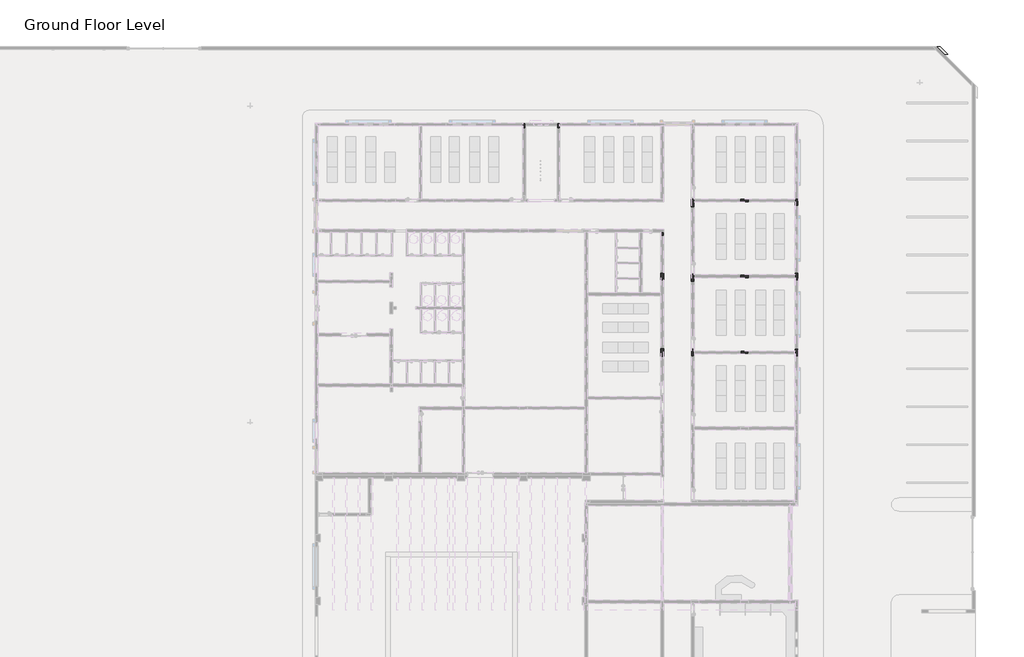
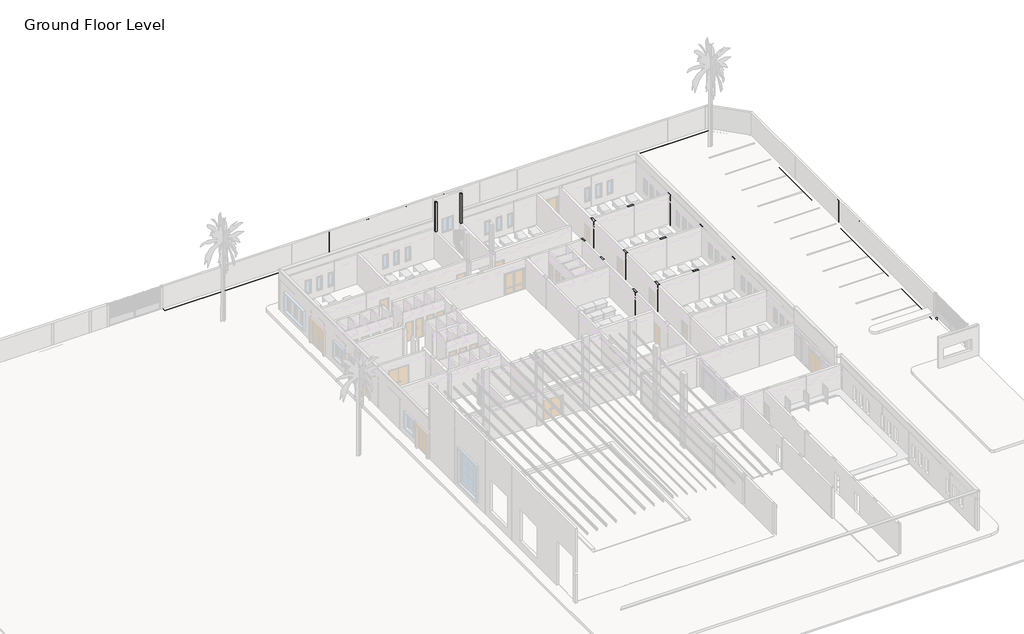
# One storey, part 20 of 23: 29 beams, 23 columns, 15 slabs, 2 footings.
"""IFC4 building model written with IfcOpenShell, lengths in millimetres."""

import ifcopenshell
import ifcopenshell.guid

model = None  # the IFC model being written
_history = None  # IfcOwnerHistory: only IFC2X3 demands one
_inside = {}  # id of a spatial element -> (the spatial element, [elements in it])
_under = {}  # id of a project, library or spatial element -> (it, [spatial elements below it])
_declared = {}  # id of a project -> (the project, [libraries it declares])
_typed = {}  # id of a type object -> (the type object, [elements of that type])
_made_of = {}  # id of a material, layer set ... -> (it, [elements and type objects made of it])


def new_model(schema):
    """Start an empty IFC model of exactly this schema.

    Asked for "IFC4X3", IfcOpenShell would pick the latest addendum, in which some entities
    have other attributes; the version numbers below select the first issue.
    IFC2X3 requires an IfcOwnerHistory on every rooted entity: one is made here for all.
    """
    global model, _history
    if schema == "IFC4X3":
        model = ifcopenshell.file(schema_version=(4, 3, 0, 0))
    else:
        model = ifcopenshell.file(schema=schema)
    _inside.clear()
    _under.clear()
    _declared.clear()
    _typed.clear()
    _made_of.clear()
    _history = None
    if model.schema == "IFC2X3":
        org = make("IfcOrganization", Name="unknown")
        user = make(
            "IfcPersonAndOrganization",
            ThePerson=make("IfcPerson", FamilyName="unknown"),
            TheOrganization=org,
        )
        app = make(
            "IfcApplication",
            ApplicationDeveloper=org,
            Version="unknown",
            ApplicationFullName="unknown",
            ApplicationIdentifier="unknown",
        )
        _history = make(
            "IfcOwnerHistory",
            OwningUser=user,
            OwningApplication=app,
            ChangeAction="ADDED",
            CreationDate=0,
        )
    return model


def make(cls, **values):
    """One entity of the class cls with the attributes given. An attribute that is None is left unset."""
    return model.create_entity(
        cls, **{name: value for name, value in values.items() if value is not None}
    )


def rooted(cls, **values):
    """An entity with a GlobalId (a new one), such as an element, a storey or a relation."""
    return make(cls, GlobalId=ifcopenshell.guid.new(), OwnerHistory=_history, **values)


def si_unit(unit_type, name, prefix=None):
    """IfcSIUnit, for example si_unit("LENGTHUNIT", "METRE", prefix="MILLI")."""
    return make("IfcSIUnit", UnitType=unit_type, Prefix=prefix, Name=name)


def assignment(units):
    """IfcUnitAssignment: the units of a project."""
    return None if units is None else make("IfcUnitAssignment", Units=units)


def point(xyz):
    """IfcCartesianPoint."""
    return None if xyz is None else make("IfcCartesianPoint", Coordinates=xyz)


def direction(xyz):
    """IfcDirection."""
    return None if xyz is None else make("IfcDirection", DirectionRatios=xyz)


def frame(location, z_axis=None, x_axis=None):
    """IfcAxis2Placement3D, a coordinate frame: its origin and axes. An axis left out is left unset."""
    return make(
        "IfcAxis2Placement3D",
        Location=point(location),
        Axis=direction(z_axis),
        RefDirection=direction(x_axis),
    )


def origin():
    """The frame at (0, 0, 0) with its axes left unset."""
    return frame((0.0, 0.0, 0.0))


def place(relative_to, where):
    """IfcLocalPlacement: puts the frame where relative to a parent placement (None: the world)."""
    return make(
        "IfcLocalPlacement", PlacementRelTo=relative_to, RelativePlacement=where
    )


def context(
    kind, dimensions, precision=None, world=None, true_north=None, identifier=None
):
    """IfcGeometricRepresentationContext, for example the 3D "Model" context."""
    return make(
        "IfcGeometricRepresentationContext",
        ContextIdentifier=identifier,
        ContextType=kind,
        CoordinateSpaceDimension=dimensions,
        Precision=precision,
        WorldCoordinateSystem=world,
        TrueNorth=true_north,
    )


def project(units=None, contexts=None):
    """IfcProject with its units and contexts."""
    return rooted(
        "IfcProject",
        Name="project",
        RepresentationContexts=contexts,
        UnitsInContext=assignment(units),
    )


def spatial(cls, under=None, at=None, **own):
    """A site, building, storey or space (cls), placed at a placement, below another one or the project."""
    s = rooted(cls, ObjectPlacement=at, **own)
    if under is not None:
        _under.setdefault(under.id(), (under, []))[1].append(s)
    return s


def polyline(points):
    """IfcPolyline through the points."""
    return make("IfcPolyline", Points=[point(p) for p in points])


def outline(outer, holes=None, kind="AREA"):
    """IfcArbitraryClosedProfileDef: a profile drawn as a closed curve; with holes, ...WithVoids."""
    if holes is None:
        return make("IfcArbitraryClosedProfileDef", ProfileType=kind, OuterCurve=outer)
    return make(
        "IfcArbitraryProfileDefWithVoids",
        ProfileType=kind,
        OuterCurve=outer,
        InnerCurves=holes,
    )


def extrude(swept, where, along, depth):
    """IfcExtrudedAreaSolid: the profile swept, set in the frame where, extruded along a direction by depth."""
    return make(
        "IfcExtrudedAreaSolid",
        SweptArea=swept,
        Position=where,
        ExtrudedDirection=direction(along),
        Depth=depth,
    )


def faces_of(points, faces, orient=None, outer=None):
    """IfcFace entities. A face is a list of loops; a loop is a list of indices into points, from 0.

    orient and outer hold one flag for each loop. By default every Orientation is true, the
    first loop of a face is its IfcFaceOuterBound and the others are IfcFaceBound.
    """
    made = []
    for i, loops in enumerate(faces):
        bounds = []
        for j, loop in enumerate(loops):
            is_outer = j == 0 if outer is None else outer[i][j]
            bounds.append(
                make(
                    "IfcFaceOuterBound" if is_outer else "IfcFaceBound",
                    Bound=make("IfcPolyLoop", Polygon=[points[k] for k in loop]),
                    Orientation=True if orient is None else orient[i][j],
                )
            )
        made.append(make("IfcFace", Bounds=bounds))
    return made


def faceted_brep(points, faces, orient=None, outer=None, voids=None):
    """IfcFacetedBrep: a solid bounded by flat faces; with voids (closed shells), ...WithVoids."""
    shared = [point(p) for p in points]
    hull = make("IfcClosedShell", CfsFaces=faces_of(shared, faces, orient, outer))
    if voids is None:
        return make("IfcFacetedBrep", Outer=hull)
    return make(
        "IfcFacetedBrepWithVoids",
        Outer=hull,
        Voids=[
            make(cls, CfsFaces=faces_of(shared, fs, o, b)) for cls, fs, o, b in voids
        ],
    )


def shape(context_of_items, identifier, shape_type, items):
    """IfcShapeRepresentation: the items that make up one representation, for example the "Body"."""
    return make(
        "IfcShapeRepresentation",
        ContextOfItems=context_of_items,
        RepresentationIdentifier=identifier,
        RepresentationType=shape_type,
        Items=items,
    )


def source(mapping_origin, context_of_items, identifier, shape_type, items):
    """IfcRepresentationMap: a shape defined once, which mapped items show again and again."""
    return make(
        "IfcRepresentationMap",
        MappingOrigin=mapping_origin,
        MappedRepresentation=shape(context_of_items, identifier, shape_type, items),
    )


def transform(
    local_origin,
    x_axis=None,
    y_axis=None,
    z_axis=None,
    scale=None,
    scale2=None,
    scale3=None,
    uniform=True,
):
    """IfcCartesianTransformationOperator3D, or its non-uniform kind. x_axis, y_axis, z_axis: its Axis1, 2, 3."""
    if uniform:
        return make(
            "IfcCartesianTransformationOperator3D",
            Axis1=direction(x_axis),
            Axis2=direction(y_axis),
            LocalOrigin=point(local_origin),
            Scale=scale,
            Axis3=direction(z_axis),
        )
    return make(
        "IfcCartesianTransformationOperator3DnonUniform",
        Axis1=direction(x_axis),
        Axis2=direction(y_axis),
        LocalOrigin=point(local_origin),
        Scale=scale,
        Axis3=direction(z_axis),
        Scale2=scale2,
        Scale3=scale3,
    )


def mapped(mapping_source, mapping_target):
    """IfcMappedItem: shows the shape of a source again, moved by a transform."""
    return make(
        "IfcMappedItem", MappingSource=mapping_source, MappingTarget=mapping_target
    )


def made_of(thing, what):
    """Note that an element or type object is made of a material, layer set ...; save() writes the relation."""
    if what is not None:
        _made_of.setdefault(what.id(), (what, []))[1].append(thing)
    return thing


def element(
    cls,
    number,
    at=None,
    inside=None,
    cuts=None,
    type_object=None,
    material=None,
    context=None,
    identifier="Body",
    shape_type=None,
    held_by="IfcProductDefinitionShape",
    body=None,
    shapes=None,
    **own,
):
    """One element of the class cls, such as IfcWall. Its Tag is "e" and its number.

    at: its placement. inside: the storey or other place that contains it. cuts: it is an
    opening in that element (IfcRelVoidsElement). A single representation is given by context,
    identifier, shape_type and body (its items); several are given by shapes. held_by: the class
    of the entity that holds the representations. save() writes the other relations.
    """
    e = rooted(cls, Tag="e%d" % number, ObjectPlacement=at, **own)
    if body is not None:
        shapes = [shape(context, identifier, shape_type, body)]
    if shapes is not None:
        e.Representation = make(held_by, Representations=shapes)
    if inside is not None:
        _inside.setdefault(inside.id(), (inside, []))[1].append(e)
    if cuts is not None:
        rooted(
            "IfcRelVoidsElement", RelatingBuildingElement=cuts, RelatedOpeningElement=e
        )
    if type_object is not None:
        _typed.setdefault(type_object.id(), (type_object, []))[1].append(e)
    return made_of(e, material)


def aggregate(whole, parts):
    """IfcRelAggregates: a whole, such as a stair, and the parts it consists of."""
    return rooted("IfcRelAggregates", RelatingObject=whole, RelatedObjects=parts)


def save(model, path):
    """Write the relations noted so far, then the file.

    IfcRelAggregates (storeys below a building ...), IfcRelContainedInSpatialStructure (elements
    in a storey), IfcRelDefinesByType, IfcRelAssociatesMaterial and IfcRelDeclares: one each for
    every whole, place, type object, material and project.
    """
    for whole, parts in _under.values():
        aggregate(whole, parts)
    for where, things in _inside.values():
        rooted(
            "IfcRelContainedInSpatialStructure",
            RelatedElements=things,
            RelatingStructure=where,
        )
    for kind, things in _typed.values():
        rooted("IfcRelDefinesByType", RelatedObjects=things, RelatingType=kind)
    for what, things in _made_of.values():
        rooted("IfcRelAssociatesMaterial", RelatedObjects=things, RelatingMaterial=what)
    for by, libraries in _declared.values():
        rooted("IfcRelDeclares", RelatingContext=by, RelatedDefinitions=libraries)
    model.write(path)


def concrete_rectangular_c_9a02abf1(model_context):
    return source(origin(), model_context, "Body", "SweptSolid", [
        extrude(outline(polyline([(100.0, -100.0), (-100.0, -100.0), (-100.0, 100.0), (100.0, 100.0), (100.0, -100.0)])), frame((0.0, 0.0, 600.0), z_axis=(0.0, 0.0, 1.0), x_axis=(1.0, 0.0, 0.0)), (0.0, 0.0, 1.0), 2450.0),
    ])


model = new_model("IFC4")

# Units and contexts
model_context = context("Model", 3, world=origin())
ifc_project = project(units=[si_unit("LENGTHUNIT", "METRE", prefix="MILLI")], contexts=[model_context])

# Site, building, storey
site = spatial("IfcSite", under=ifc_project)
building = spatial("IfcBuilding", under=site)
storey = spatial("IfcBuildingStorey", under=building, Name="Ground Floor Level", Elevation=900.0)

# Beams
placement = place(None, origin())
element("IfcBeam", 1, ObjectType="Concrete - Rectangular Beam : GB1", at=placement, inside=storey, context=model_context, shape_type="SweptSolid", body=[
    extrude(outline(polyline([(1852.7672395, 11745.2153534), (1852.7672395, 11945.2153534), (3552.7672395, 11945.2153534), (3552.7672395, 11745.2153534), (1852.7672395, 11745.2153534)])), frame((0.0, 0.0, 500.0), z_axis=(0.0, 0.0, 1.0), x_axis=(1.0, 0.0, 0.0)), (0.0, 0.0, 1.0), 100.0),
])
element("IfcBeam", 2, ObjectType="Concrete - Rectangular Beam : GB1", at=placement, inside=storey, context=model_context, shape_type="SweptSolid", body=[
    extrude(outline(polyline([(1852.7672395, 10545.2153534), (1852.7672395, 10745.2153534), (3552.7672395, 10745.2153534), (3552.7672395, 10545.2153534), (1852.7672395, 10545.2153534)])), frame((0.0, 0.0, 500.0), z_axis=(0.0, 0.0, 1.0), x_axis=(1.0, 0.0, 0.0)), (0.0, 0.0, 1.0), 100.0),
])
element("IfcBeam", 3, ObjectType="Concrete - Rectangular Beam : GB1", at=placement, inside=storey, context=model_context, shape_type="SweptSolid", body=[
    extrude(outline(polyline([(1852.7672395, 9345.2153534), (1852.7672395, 9545.2153534), (3552.7672395, 9545.2153534), (3552.7672395, 9345.2153534), (1852.7672395, 9345.2153534)])), frame((0.0, 0.0, 500.0), z_axis=(0.0, 0.0, 1.0), x_axis=(1.0, 0.0, 0.0)), (0.0, 0.0, 1.0), 100.0),
])
element("IfcBeam", 4, ObjectType="Concrete - Rectangular Beam : GB2", at=placement, inside=storey, context=model_context, shape_type="SweptSolid", body=[
    extrude(outline(polyline([(-2947.2327605, 21645.2153534), (-2947.2327605, 21445.2153534), (-5447.2327605, 21445.2153534), (-5447.2327605, 21645.2153534), (-2947.2327605, 21645.2153534)])), frame((0.0, 0.0, 300.0), z_axis=(0.0, 0.0, 1.0), x_axis=(1.0, 0.0, 0.0)), (0.0, 0.0, 1.0), 300.0),
])
element("IfcBeam", 5, ObjectType="Concrete - Rectangular Beam : GB2", at=placement, inside=storey, context=model_context, shape_type="SweptSolid", body=[
    extrude(outline(polyline([(5502.7672395, 9445.2153534), (5502.7672395, 9645.2153534), (7652.7672395, 9645.2153534), (7652.7672395, 9445.2153534), (5502.7672395, 9445.2153534)])), frame((0.0, 0.0, 300.0), z_axis=(0.0, 0.0, 1.0), x_axis=(1.0, 0.0, 0.0)), (0.0, 0.0, 1.0), 300.0),
])
element("IfcBeam", 6, ObjectType="Concrete - Rectangular Beam : GB2", at=placement, inside=storey, context=model_context, shape_type="SweptSolid", body=[
    extrude(outline(polyline([(5452.7672395, 9795.2153534), (5252.7672395, 9795.2153534), (5252.7672395, 12745.2153534), (5452.7672395, 12745.2153534), (5452.7672395, 9795.2153534)])), frame((0.0, 0.0, 300.0), z_axis=(0.0, 0.0, 1.0), x_axis=(1.0, 0.0, 0.0)), (0.0, 0.0, 1.0), 300.0),
])
element("IfcBeam", 7, ObjectType="Concrete - Rectangular Beam : GB3", at=placement, inside=storey, context=model_context, shape_type="Brep", body=[
    faceted_brep([(7852.7672395, 15445.2153534, 300.0), (11552.7672395, 15445.2153534, 300.0), (11552.7672395, 15445.2153534, 600.0), (7852.7672395, 15445.2153534, 600.0), (7852.7672395, 15645.2153534, 300.0), (11342.223802, 15645.2153534, 300.0), (11542.223802, 15645.2153534, 300.0), (11552.7672395, 15645.2153534, 300.0), (7852.7672395, 15645.2153534, 600.0), (11342.223802, 15645.2153534, 600.0), (11542.223802, 15645.2153534, 600.0), (11552.7672395, 15645.2153534, 600.0)], [[[0, 1, 2, 3]], [[0, 4, 5, 6, 7, 1]], [[7, 6, 5, 4, 8, 9, 10, 11]], [[4, 0, 3, 8]], [[1, 7, 11, 2]], [[3, 2, 11, 10, 9, 8]]]),
])
element("IfcBeam", 8, ObjectType="Concrete - Rectangular Beam : GB3", at=placement, inside=storey, context=model_context, shape_type="SweptSolid", body=[
    extrude(outline(polyline([(15852.7672395, 15645.2153534), (15852.7672395, 15445.2153534), (12152.7672395, 15445.2153534), (12152.7672395, 15645.2153534), (15852.7672395, 15645.2153534)])), frame((0.0, 0.0, 300.0), z_axis=(0.0, 0.0, 1.0), x_axis=(1.0, 0.0, 0.0)), (0.0, 0.0, 1.0), 300.0),
])
element("IfcBeam", 9, ObjectType="Concrete - Rectangular Beam : GB3", at=placement, inside=storey, context=model_context, shape_type="SweptSolid", body=[
    extrude(outline(polyline([(12152.7672395, 9445.2153534), (12152.7672395, 9645.2153534), (15852.7672395, 9645.2153534), (15852.7672395, 9445.2153534), (12152.7672395, 9445.2153534)])), frame((0.0, 0.0, 300.0), z_axis=(0.0, 0.0, 1.0), x_axis=(1.0, 0.0, 0.0)), (0.0, 0.0, 1.0), 300.0),
])
element("IfcBeam", 10, ObjectType="Concrete - Rectangular Beam : GB3", at=placement, inside=storey, context=model_context, shape_type="SweptSolid", body=[
    extrude(outline(polyline([(11552.7672395, 9645.2153534), (11552.7672395, 9445.2153534), (7852.7672395, 9445.2153534), (7852.7672395, 9645.2153534), (11552.7672395, 9645.2153534)])), frame((0.0, 0.0, 300.0), z_axis=(0.0, 0.0, 1.0), x_axis=(1.0, 0.0, 0.0)), (0.0, 0.0, 1.0), 300.0),
])
element("IfcBeam", 11, ObjectType="Concrete - Rectangular Beam : GB3", at=placement, inside=storey, context=model_context, shape_type="SweptSolid", body=[
    extrude(outline(polyline([(-497.2327605, 3445.2153534), (-497.2327605, 3645.2153534), (5202.7672395, 3645.2153534), (5202.7672395, 3445.2153534), (-497.2327605, 3445.2153534)])), frame((0.0, 0.0, 300.0), z_axis=(0.0, 0.0, 1.0), x_axis=(1.0, 0.0, 0.0)), (0.0, 0.0, 1.0), 300.0),
])
element("IfcBeam", 12, ObjectType="Concrete - Rectangular Beam : GB3", at=placement, inside=storey, context=model_context, shape_type="SweptSolid", body=[
    extrude(outline(polyline([(11952.7672395, 9445.2153534), (12152.7672395, 9445.2153534), (12152.7672395, 3645.2153534), (11952.7672395, 3645.2153534), (11952.7672395, 9445.2153534)])), frame((0.0, 0.0, 300.0), z_axis=(0.0, 0.0, 1.0), x_axis=(1.0, 0.0, 0.0)), (0.0, 0.0, 1.0), 300.0),
])
element("IfcBeam", 13, ObjectType="Concrete - Rectangular Beam : GB3", at=placement, inside=storey, context=model_context, shape_type="SweptSolid", body=[
    extrude(outline(polyline([(11552.7672395, 3645.2153534), (11552.7672395, 3445.2153534), (7852.7672395, 3445.2153534), (7852.7672395, 3645.2153534), (11552.7672395, 3645.2153534)])), frame((0.0, 0.0, 300.0), z_axis=(0.0, 0.0, 1.0), x_axis=(1.0, 0.0, 0.0)), (0.0, 0.0, 1.0), 300.0),
])
element("IfcBeam", 14, ObjectType="Concrete - Rectangular Beam : GB3", at=placement, inside=storey, context=model_context, shape_type="SweptSolid", body=[
    extrude(outline(polyline([(12152.7672395, 3645.2153534), (15852.7672395, 3645.2153534), (15852.7672395, 3445.2153534), (12152.7672395, 3445.2153534), (12152.7672395, 3645.2153534)])), frame((0.0, 0.0, 300.0), z_axis=(0.0, 0.0, 1.0), x_axis=(1.0, 0.0, 0.0)), (0.0, 0.0, 1.0), 300.0),
])
element("IfcBeam", 15, ObjectType="Concrete - Rectangular Beam : GB4", at=placement, inside=storey, context=model_context, shape_type="SweptSolid", body=[
    extrude(outline(polyline([(16052.7672395, 9795.2153534), (15852.7672395, 9795.2153534), (15852.7672395, 15145.2153534), (16052.7672395, 15145.2153534), (16052.7672395, 9795.2153534)])), frame((0.0, 0.0, 300.0), z_axis=(0.0, 0.0, 1.0), x_axis=(1.0, 0.0, 0.0)), (0.0, 0.0, 1.0), 300.0),
])
element("IfcBeam", 16, ObjectType="Concrete - Rectangular Beam : GB4", at=placement, inside=storey, context=model_context, shape_type="SweptSolid", body=[
    extrude(outline(polyline([(16052.7672395, 3795.2153534), (15852.7672395, 3795.2153534), (15852.7672395, 9295.2153534), (16052.7672395, 9295.2153534), (16052.7672395, 3795.2153534)])), frame((0.0, 0.0, 300.0), z_axis=(0.0, 0.0, 1.0), x_axis=(1.0, 0.0, 0.0)), (0.0, 0.0, 1.0), 300.0),
])
element("IfcBeam", 17, ObjectType="Concrete - Rectangular Beam : GB4", at=placement, inside=storey, context=model_context, shape_type="SweptSolid", body=[
    extrude(outline(polyline([(16052.7672395, -2204.7846466), (15852.7672395, -2204.7846466), (15852.7672395, 3295.2153534), (16052.7672395, 3295.2153534), (16052.7672395, -2204.7846466)])), frame((0.0, 0.0, 300.0), z_axis=(0.0, 0.0, 1.0), x_axis=(1.0, 0.0, 0.0)), (0.0, 0.0, 1.0), 300.0),
])
element("IfcBeam", 18, ObjectType="Concrete - Rectangular Beam : GB4", at=placement, inside=storey, context=model_context, shape_type="SweptSolid", body=[
    extrude(outline(polyline([(2802.7672395, 15645.2153534), (2802.7672395, 21445.2153534), (3002.7672395, 21445.2153534), (3002.7672395, 15645.2153534), (2802.7672395, 15645.2153534)])), frame((0.0, 0.0, 300.0), z_axis=(0.0, 0.0, 1.0), x_axis=(1.0, 0.0, 0.0)), (0.0, 0.0, 1.0), 300.0),
])
element("IfcBeam", 19, ObjectType="Concrete - Rectangular Beam : GB4", at=placement, inside=storey, context=model_context, shape_type="SweptSolid", body=[
    extrude(outline(polyline([(-2747.2327605, 15445.2153534), (-2747.2327605, 15645.2153534), (2752.7672395, 15645.2153534), (2752.7672395, 15445.2153534), (-2747.2327605, 15445.2153534)])), frame((0.0, 0.0, 300.0), z_axis=(0.0, 0.0, 1.0), x_axis=(1.0, 0.0, 0.0)), (0.0, 0.0, 1.0), 300.0),
])
element("IfcBeam", 20, ObjectType="Concrete - Rectangular Beam : GB4", at=placement, inside=storey, context=model_context, shape_type="SweptSolid", body=[
    extrude(outline(polyline([(7652.7672395, 15045.2153534), (7852.7672395, 15045.2153534), (7852.7672395, 9745.2153534), (7652.7672395, 9745.2153534), (7652.7672395, 15045.2153534)])), frame((0.0, 0.0, 300.0), z_axis=(0.0, 0.0, 1.0), x_axis=(1.0, 0.0, 0.0)), (0.0, 0.0, 1.0), 300.0),
])
element("IfcBeam", 21, ObjectType="Concrete - Rectangular Beam : GB4", at=placement, inside=storey, context=model_context, shape_type="Brep", body=[
    faceted_brep([(1652.7672395, 12995.2153534, 300.0), (1652.7672395, 8295.2153534, 300.0), (1652.7672395, 8295.2153534, 600.0), (1652.7672395, 12995.2153534, 600.0), (1852.7672395, 12995.2153534, 300.0), (1852.7672395, 8295.2153534, 300.0), (1852.7672395, 12995.2153534, 600.0), (1852.7672395, 11945.2153534, 600.0), (1852.7672395, 11745.2153534, 600.0), (1852.7672395, 10745.2153534, 600.0), (1852.7672395, 10545.2153534, 600.0), (1852.7672395, 9545.2153534, 600.0), (1852.7672395, 9345.2153534, 600.0), (1852.7672395, 8295.2153534, 600.0)], [[[0, 1, 2, 3]], [[0, 4, 5, 1]], [[5, 4, 6, 7, 8, 9, 10, 11, 12, 13]], [[4, 0, 3, 6]], [[1, 5, 13, 2]], [[3, 2, 13, 12, 11, 10, 9, 8, 7, 6]]]),
])
element("IfcBeam", 22, ObjectType="Concrete - Rectangular Beam : GB4", at=placement, inside=storey, context=model_context, shape_type="Brep", body=[
    faceted_brep([(3552.7672395, 12995.2153534, 300.0), (3552.7672395, 8295.2153534, 300.0), (3552.7672395, 8295.2153534, 600.0), (3552.7672395, 9345.2153534, 600.0), (3552.7672395, 9545.2153534, 600.0), (3552.7672395, 10545.2153534, 600.0), (3552.7672395, 10745.2153534, 600.0), (3552.7672395, 11745.2153534, 600.0), (3552.7672395, 11945.2153534, 600.0), (3552.7672395, 12995.2153534, 600.0), (3752.7672395, 12995.2153534, 300.0), (3752.7672395, 8295.2153534, 300.0), (3752.7672395, 12995.2153534, 600.0), (3752.7672395, 8295.2153534, 600.0)], [[[0, 1, 2, 3, 4, 5, 6, 7, 8, 9]], [[0, 10, 11, 1]], [[11, 10, 12, 13]], [[10, 0, 9, 12]], [[1, 11, 13, 2]], [[9, 8, 7, 6, 5, 4, 3, 2, 13, 12]]]),
])
element("IfcBeam", 23, ObjectType="Concrete - Rectangular Beam : GB4", at=placement, inside=storey, context=model_context, shape_type="SweptSolid", body=[
    extrude(outline(polyline([(7652.7672395, 9145.2153534), (7852.7672395, 9145.2153534), (7852.7672395, 3845.2153534), (7652.7672395, 3845.2153534), (7652.7672395, 9145.2153534)])), frame((0.0, 0.0, 300.0), z_axis=(0.0, 0.0, 1.0), x_axis=(1.0, 0.0, 0.0)), (0.0, 0.0, 1.0), 300.0),
])
element("IfcBeam", 24, ObjectType="Concrete - Rectangular Beam : GB4", at=placement, inside=storey, context=model_context, shape_type="SweptSolid", body=[
    extrude(outline(polyline([(7652.7672395, 3245.2153534), (7852.7672395, 3245.2153534), (7852.7672395, -2154.7846466), (7652.7672395, -2154.7846466), (7652.7672395, 3245.2153534)])), frame((0.0, 0.0, 300.0), z_axis=(0.0, 0.0, 1.0), x_axis=(1.0, 0.0, 0.0)), (0.0, 0.0, 1.0), 300.0),
])
element("IfcBeam", 25, ObjectType="Concrete - Rectangular Beam : GB4", at=placement, inside=storey, context=model_context, shape_type="Brep", body=[
    faceted_brep([(5252.7672395, 3245.2153534, 300.0), (5252.7672395, 45.2153534, 300.0), (5252.7672395, -154.7846466, 300.0), (5252.7672395, -2154.7846466, 300.0), (5252.7672395, -2154.7846466, 600.0), (5252.7672395, -154.7846466, 600.0), (5252.7672395, 45.2153534, 600.0), (5252.7672395, 3245.2153534, 600.0), (5452.7672395, 3245.2153534, 300.0), (5452.7672395, -2154.7846466, 300.0), (5452.7672395, 3245.2153534, 600.0), (5452.7672395, -2154.7846466, 600.0)], [[[0, 1, 2, 3, 4, 5, 6, 7]], [[0, 8, 9, 3, 2, 1]], [[9, 8, 10, 11]], [[8, 0, 7, 10]], [[3, 9, 11, 4]], [[7, 6, 5, 4, 11, 10]]]),
])
element("IfcBeam", 26, ObjectType="Concrete - Rectangular Beam : GB5", at=placement, inside=storey, context=model_context, shape_type="Brep", body=[
    faceted_brep([(3352.7672395, 15445.2153534, 300.0), (7652.7672395, 15445.2153534, 300.0), (7652.7672395, 15445.2153534, 600.0), (3352.7672395, 15445.2153534, 600.0), (7652.7672395, 15645.2153534, 300.0), (3352.7672395, 15645.2153534, 300.0), (5252.7672395, 15645.2153534, 300.0), (5452.7672395, 15645.2153534, 300.0), (3352.7672395, 15645.2153534, 600.0), (5252.7672395, 15645.2153534, 600.0), (5452.7672395, 15645.2153534, 600.0), (7652.7672395, 15645.2153534, 600.0)], [[[0, 1, 2, 3]], [[4, 1, 0, 5, 6, 7]], [[4, 7, 6, 5, 8, 9, 10, 11]], [[1, 4, 11, 2]], [[5, 0, 3, 8]], [[3, 2, 11, 10, 9, 8]]]),
])
element("IfcBeam", 27, ObjectType="Concrete - Rectangular Beam : GB6", at=placement, inside=storey, context=model_context, shape_type="Brep", body=[
    faceted_brep([(5452.7672395, 13295.2153534, 300.0), (-747.2327605, 13295.2153534, 300.0), (-747.2327605, 13295.2153534, 600.0), (5452.7672395, 13295.2153534, 600.0), (-747.2327605, 13045.2153534, 300.0), (-347.2327605, 13045.2153534, 300.0), (-347.2327605, 13245.2153534, 300.0), (-747.2327605, 13245.2153534, 300.0), (5452.7672395, 13245.2153534, 300.0), (5252.7672395, 13245.2153534, 300.0), (5252.7672395, 12995.2153534, 300.0), (3752.7672395, 12995.2153534, 300.0), (3552.7672395, 12995.2153534, 300.0), (1852.7672395, 12995.2153534, 300.0), (1652.7672395, 12995.2153534, 300.0), (-547.2327605, 12995.2153534, 300.0), (-747.2327605, 12995.2153534, 300.0), (5252.7672395, 12995.2153534, 600.0), (3752.7672395, 12995.2153534, 600.0), (3552.7672395, 12995.2153534, 600.0), (1852.7672395, 12995.2153534, 600.0), (1652.7672395, 12995.2153534, 600.0), (-547.2327605, 12995.2153534, 600.0), (-747.2327605, 12995.2153534, 600.0), (-747.2327605, 13045.2153534, 600.0), (-347.2327605, 13045.2153534, 600.0), (-347.2327605, 13245.2153534, 600.0), (-747.2327605, 13245.2153534, 600.0), (5252.7672395, 13245.2153534, 600.0), (5452.7672395, 13245.2153534, 600.0)], [[[0, 1, 2, 3]], [[4, 5, 6, 7, 1, 0, 8, 9, 10, 11, 12, 13, 14, 15, 16]], [[16, 15, 14, 13, 12, 11, 10, 17, 18, 19, 20, 21, 22, 23]], [[5, 4, 24, 25]], [[7, 6, 26, 27]], [[6, 5, 25, 26]], [[10, 9, 28, 17]], [[9, 8, 29, 28]], [[4, 16, 23, 24]], [[8, 0, 3, 29]], [[1, 7, 27, 2]], [[3, 2, 27, 26, 25, 24, 23, 22, 21, 20, 19, 18, 17, 28, 29]]]),
])
element("IfcBeam", 28, ObjectType="Concrete - Rectangular Beam : GB6", at=placement, inside=storey, context=model_context, shape_type="Brep", body=[
    faceted_brep([(-497.2327605, 7995.2153534, 300.0), (5202.7672395, 7995.2153534, 300.0), (5202.7672395, 7995.2153534, 600.0), (-497.2327605, 7995.2153534, 600.0), (-497.2327605, 8295.2153534, 300.0), (1652.7672395, 8295.2153534, 300.0), (1852.7672395, 8295.2153534, 300.0), (3552.7672395, 8295.2153534, 300.0), (3752.7672395, 8295.2153534, 300.0), (5202.7672395, 8295.2153534, 300.0), (-497.2327605, 8295.2153534, 600.0), (1652.7672395, 8295.2153534, 600.0), (1852.7672395, 8295.2153534, 600.0), (3552.7672395, 8295.2153534, 600.0), (3752.7672395, 8295.2153534, 600.0), (5202.7672395, 8295.2153534, 600.0)], [[[0, 1, 2, 3]], [[0, 4, 5, 6, 7, 8, 9, 1]], [[9, 8, 7, 6, 5, 4, 10, 11, 12, 13, 14, 15]], [[4, 0, 3, 10]], [[1, 9, 15, 2]], [[3, 2, 15, 14, 13, 12, 11, 10]]]),
])
element("IfcBeam", 29, ObjectType="Concrete - Rectangular Beam : GB6", at=placement, inside=storey, context=model_context, shape_type="Brep", body=[
    faceted_brep([(5202.7672395, 9645.2153534, 300.0), (5202.7672395, 8295.2153534, 300.0), (5202.7672395, 7995.2153534, 300.0), (5202.7672395, 3645.2153534, 300.0), (5202.7672395, 3445.2153534, 300.0), (5202.7672395, 3445.2153534, 600.0), (5202.7672395, 3645.2153534, 600.0), (5202.7672395, 7995.2153534, 600.0), (5202.7672395, 8295.2153534, 600.0), (5202.7672395, 9645.2153534, 600.0), (5252.7672395, 3845.2153534, 300.0), (5252.7672395, 3445.2153534, 300.0), (5252.7672395, 9645.2153534, 300.0), (5252.7672395, 9295.2153534, 300.0), (5452.7672395, 9295.2153534, 300.0), (5452.7672395, 9645.2153534, 300.0), (5502.7672395, 9645.2153534, 300.0), (5502.7672395, 9445.2153534, 300.0), (5502.7672395, 3445.2153534, 300.0), (5452.7672395, 3445.2153534, 300.0), (5452.7672395, 3845.2153534, 300.0), (5502.7672395, 9645.2153534, 600.0), (5502.7672395, 9445.2153534, 600.0), (5502.7672395, 3445.2153534, 600.0), (5252.7672395, 3845.2153534, 600.0), (5252.7672395, 3445.2153534, 600.0), (5452.7672395, 3845.2153534, 600.0), (5452.7672395, 3445.2153534, 600.0), (5452.7672395, 9295.2153534, 600.0), (5452.7672395, 9645.2153534, 600.0), (5252.7672395, 9295.2153534, 600.0), (5252.7672395, 9645.2153534, 600.0)], [[[0, 1, 2, 3, 4, 5, 6, 7, 8, 9]], [[10, 11, 4, 3, 2, 1, 0, 12, 13, 14, 15, 16, 17, 18, 19, 20]], [[18, 17, 16, 21, 22, 23]], [[11, 10, 24, 25]], [[10, 20, 26, 24]], [[20, 19, 27, 26]], [[15, 14, 28, 29]], [[14, 13, 30, 28]], [[13, 12, 31, 30]], [[4, 11, 25, 5]], [[16, 15, 29, 21]], [[19, 18, 23, 27]], [[12, 0, 9, 31]], [[9, 8, 7, 6, 5, 25, 24, 26, 27, 23, 22, 21, 29, 28, 30, 31]]]),
])

# Columns
element("IfcColumn", 30, ObjectType="Concrete Rectangular : C", at=placement, inside=storey, context=model_context, shape_type="SweptSolid", body=[
    extrude(outline(polyline([(-13347.3444985, 27650.6767253), (-13147.3444985, 27650.6767253), (-13147.3444985, 27450.6767253), (-13347.3444985, 27450.6767253), (-13347.3444985, 27650.6767253)])), frame((0.0, 0.0, 600.0), z_axis=(0.0, 0.0, 1.0), x_axis=(1.0, 0.0, 0.0)), (0.0, 0.0, 1.0), 2450.0),
])
element("IfcColumn", 31, ObjectType="Concrete Rectangular : C", at=placement, inside=storey, context=model_context, shape_type="SweptSolid", body=[
    extrude(outline(polyline([(-9347.3444985, 27650.6767253), (-9147.3444985, 27650.6767253), (-9147.3444985, 27450.6767253), (-9347.3444985, 27450.6767253), (-9347.3444985, 27650.6767253)])), frame((0.0, 0.0, 600.0), z_axis=(0.0, 0.0, 1.0), x_axis=(1.0, 0.0, 0.0)), (0.0, 0.0, 1.0), 2450.0),
])
element("IfcColumn", 32, ObjectType="Concrete Rectangular : C", at=placement, inside=storey, context=model_context, shape_type="SweptSolid", body=[
    extrude(outline(polyline([(-5347.3444985, 27650.6767253), (-5147.3444985, 27650.6767253), (-5147.3444985, 27450.6767253), (-5347.3444985, 27450.6767253), (-5347.3444985, 27650.6767253)])), frame((0.0, 0.0, 600.0), z_axis=(0.0, 0.0, 1.0), x_axis=(1.0, 0.0, 0.0)), (0.0, 0.0, 1.0), 2450.0),
])
element("IfcColumn", 33, ObjectType="Concrete Rectangular : C", at=placement, inside=storey, context=model_context, shape_type="SweptSolid", body=[
    extrude(outline(polyline([(-1347.3444985, 27650.6767253), (-1147.3444985, 27650.6767253), (-1147.3444985, 27450.6767253), (-1347.3444985, 27450.6767253), (-1347.3444985, 27650.6767253)])), frame((0.0, 0.0, 600.0), z_axis=(0.0, 0.0, 1.0), x_axis=(1.0, 0.0, 0.0)), (0.0, 0.0, 1.0), 2450.0),
])
concrete_rectangular_c_shape = concrete_rectangular_c_9a02abf1(model_context)
element("IfcColumn", 34, ObjectType="Concrete Rectangular : C", at=placement, inside=storey, context=model_context, shape_type="MappedRepresentation", body=[
    mapped(concrete_rectangular_c_shape, transform((29943.9253387, 12439.4068881, 0.0), x_axis=(-1.0, 0.0, 0.0), y_axis=(0.0, -1.0, 0.0), z_axis=(0.0, 0.0, 1.0))),
])
element("IfcColumn", 35, ObjectType="Concrete Rectangular : C", at=placement, inside=storey, context=model_context, shape_type="MappedRepresentation", body=[
    mapped(concrete_rectangular_c_shape, transform((29943.9253387, 8439.4068881, 0.0), x_axis=(-1.0, 0.0, 0.0), y_axis=(0.0, -1.0, 0.0), z_axis=(0.0, 0.0, 1.0))),
])
element("IfcColumn", 36, ObjectType="Concrete Rectangular : C", at=placement, inside=storey, context=model_context, shape_type="MappedRepresentation", body=[
    mapped(concrete_rectangular_c_shape, transform((29943.9253387, 4439.4068881, 0.0), x_axis=(-1.0, 0.0, 0.0), y_axis=(0.0, -1.0, 0.0), z_axis=(0.0, 0.0, 1.0))),
])
element("IfcColumn", 37, ObjectType="Concrete Rectangular : C", at=placement, inside=storey, context=model_context, shape_type="MappedRepresentation", body=[
    mapped(concrete_rectangular_c_shape, transform((29943.9253387, 439.4068881, 0.0), x_axis=(-1.0, 0.0, 0.0), y_axis=(0.0, -1.0, 0.0), z_axis=(0.0, 0.0, 1.0))),
])
element("IfcColumn", 38, ObjectType="Concrete Rectangular : C1", at=placement, inside=storey, context=model_context, shape_type="Brep", body=[
    faceted_brep([(-5447.2327605, 21645.2153534, -300.0), (-5447.2327605, 21245.2153534, -300.0), (-5647.2327605, 21245.2153534, -300.0), (-5647.2327605, 21645.2153534, -300.0), (-5447.2327605, 21645.2153534, 900.0), (-5447.2327605, 21645.2153534, 7400.0), (-5447.2327605, 21435.2153534, 7400.0), (-5447.2327605, 21245.2153534, 7400.0), (-5447.2327605, 21245.2153534, 4100.0), (-5447.2327605, 21245.2153534, 1000.0), (-5447.2327605, 21245.2153534, 900.0), (-5647.2327605, 21245.2153534, 7400.0), (-5647.2327605, 21245.2153534, 4550.0), (-5647.2327605, 21245.2153534, 4400.0), (-5647.2327605, 21245.2153534, 4100.0), (-5647.2327605, 21245.2153534, 1000.0), (-5647.2327605, 21245.2153534, 900.0), (-5647.2327605, 21435.2153534, 7400.0), (-5647.2327605, 21645.2153534, 7400.0), (-5647.2327605, 21645.2153534, 4550.0), (-5647.2327605, 21645.2153534, 4400.0), (-5647.2327605, 21645.2153534, 900.0)], [[[0, 1, 2, 3]], [[1, 0, 4, 5, 6, 7, 8, 9, 10]], [[2, 1, 10, 9, 8, 7, 11, 12, 13, 14, 15, 16]], [[3, 2, 16, 15, 14, 13, 12, 11, 17, 18, 19, 20, 21]], [[0, 3, 21, 20, 19, 18, 5, 4]], [[7, 6, 5, 18, 17, 11]]]),
])
element("IfcColumn", 39, ObjectType="Concrete Rectangular : C1", at=placement, inside=storey, context=model_context, shape_type="Brep", body=[
    faceted_brep([(-2747.2327605, 21645.2153534, -300.0), (-2747.2327605, 21245.2153534, -300.0), (-2947.2327605, 21245.2153534, -300.0), (-2947.2327605, 21645.2153534, -300.0), (-2747.2327605, 21645.2153534, 900.0), (-2747.2327605, 21645.2153534, 4400.0), (-2747.2327605, 21645.2153534, 4550.0), (-2747.2327605, 21645.2153534, 7400.0), (-2747.2327605, 21435.2153534, 7400.0), (-2747.2327605, 21245.2153534, 7400.0), (-2747.2327605, 21245.2153534, 4550.0), (-2747.2327605, 21245.2153534, 4400.0), (-2747.2327605, 21245.2153534, 4100.0), (-2747.2327605, 21245.2153534, 900.0), (-2947.2327605, 21245.2153534, 7400.0), (-2947.2327605, 21245.2153534, 4100.0), (-2947.2327605, 21245.2153534, 900.0), (-2947.2327605, 21435.2153534, 7400.0), (-2947.2327605, 21645.2153534, 7400.0), (-2947.2327605, 21645.2153534, 900.0)], [[[0, 1, 2, 3]], [[1, 0, 4, 5, 6, 7, 8, 9, 10, 11, 12, 13]], [[2, 1, 13, 12, 11, 10, 9, 14, 15, 16]], [[3, 2, 16, 15, 14, 17, 18, 19]], [[0, 3, 19, 18, 7, 6, 5, 4]], [[9, 8, 7, 18, 17, 14]]]),
])
element("IfcColumn", 40, ObjectType="Concrete Rectangular : C2", at=placement, inside=storey, context=model_context, shape_type="Brep", body=[
    faceted_brep([(15852.7672395, 3295.2153534, -300.0), (15852.7672395, 3795.2153534, -300.0), (16052.7672395, 3795.2153534, -300.0), (16052.7672395, 3295.2153534, -300.0), (15852.7672395, 3295.2153534, 4400.0), (15852.7672395, 3795.2153534, 4400.0), (15852.7672395, 3795.2153534, 1000.0), (15852.7672395, 3795.2153534, 900.0), (15852.7672395, 3295.2153534, 900.0), (15852.7672395, 3295.2153534, 1000.0), (16052.7672395, 3795.2153534, 4400.0), (16052.7672395, 3795.2153534, 900.0), (16052.7672395, 3295.2153534, 4400.0), (16052.7672395, 3295.2153534, 900.0)], [[[0, 1, 2, 3]], [[4, 5, 6, 7, 1, 0, 8, 9]], [[5, 10, 11, 2, 1, 7, 6]], [[10, 12, 13, 3, 2, 11]], [[12, 4, 9, 8, 0, 3, 13]], [[4, 12, 10, 5]]]),
])
element("IfcColumn", 41, ObjectType="Concrete Rectangular : C2", at=placement, inside=storey, context=model_context, shape_type="Brep", body=[
    faceted_brep([(16052.7672395, 9795.2153534, -300.0), (16052.7672395, 9295.2153534, -300.0), (15852.7672395, 9295.2153534, -300.0), (15852.7672395, 9795.2153534, -300.0), (16052.7672395, 9795.2153534, 4400.0), (16052.7672395, 9295.2153534, 4400.0), (16052.7672395, 9295.2153534, 900.0), (16052.7672395, 9795.2153534, 900.0), (15852.7672395, 9295.2153534, 4400.0), (15852.7672395, 9295.2153534, 1000.0), (15852.7672395, 9295.2153534, 900.0), (15852.7672395, 9795.2153534, 4400.0), (15852.7672395, 9795.2153534, 1000.0), (15852.7672395, 9795.2153534, 900.0)], [[[0, 1, 2, 3]], [[4, 5, 6, 1, 0, 7]], [[5, 8, 9, 10, 2, 1, 6]], [[8, 11, 12, 13, 3, 2, 10, 9]], [[11, 4, 7, 0, 3, 13, 12]], [[4, 11, 8, 5]]]),
])
element("IfcColumn", 42, ObjectType="Concrete Rectangular : C2", at=placement, inside=storey, context=model_context, shape_type="Brep", body=[
    faceted_brep([(16052.7672395, 15645.2153534, -300.0), (16052.7672395, 15145.2153534, -300.0), (15852.7672395, 15145.2153534, -300.0), (15852.7672395, 15645.2153534, -300.0), (16052.7672395, 15645.2153534, 4400.0), (16052.7672395, 15145.2153534, 4400.0), (16052.7672395, 15145.2153534, 900.0), (16052.7672395, 15645.2153534, 900.0), (15852.7672395, 15145.2153534, 4400.0), (15852.7672395, 15145.2153534, 1000.0), (15852.7672395, 15145.2153534, 900.0), (15852.7672395, 15645.2153534, 4400.0), (15852.7672395, 15645.2153534, 900.0)], [[[0, 1, 2, 3]], [[4, 5, 6, 1, 0, 7]], [[5, 8, 9, 10, 2, 1, 6]], [[8, 11, 12, 3, 2, 10, 9]], [[11, 4, 7, 0, 3, 12]], [[4, 11, 8, 5]]]),
])
element("IfcColumn", 43, ObjectType="Concrete Rectangular : C2", at=placement, inside=storey, context=model_context, shape_type="Brep", body=[
    faceted_brep([(5452.7672395, 9795.2153534, -300.0), (5452.7672395, 9295.2153534, -300.0), (5252.7672395, 9295.2153534, -300.0), (5252.7672395, 9795.2153534, -300.0), (5452.7672395, 9795.2153534, 4400.0), (5452.7672395, 9295.2153534, 4400.0), (5452.7672395, 9295.2153534, 1000.0), (5452.7672395, 9295.2153534, 900.0), (5452.7672395, 9795.2153534, 900.0), (5452.7672395, 9795.2153534, 1000.0), (5252.7672395, 9295.2153534, 4400.0), (5252.7672395, 9295.2153534, 900.0), (5252.7672395, 9795.2153534, 4400.0), (5252.7672395, 9795.2153534, 900.0)], [[[0, 1, 2, 3]], [[4, 5, 6, 7, 1, 0, 8, 9]], [[5, 10, 11, 2, 1, 7, 6]], [[10, 12, 13, 3, 2, 11]], [[12, 4, 9, 8, 0, 3, 13]], [[4, 12, 10, 5]]]),
])
element("IfcColumn", 44, ObjectType="Concrete Rectangular : C2", at=placement, inside=storey, context=model_context, shape_type="Brep", body=[
    faceted_brep([(5452.7672395, 13245.2153534, -300.0), (5452.7672395, 12745.2153534, -300.0), (5252.7672395, 12745.2153534, -300.0), (5252.7672395, 13245.2153534, -300.0), (5452.7672395, 13245.2153534, 4400.0), (5452.7672395, 13035.2153534, 4400.0), (5452.7672395, 12745.2153534, 4400.0), (5452.7672395, 12745.2153534, 1000.0), (5452.7672395, 12745.2153534, 900.0), (5252.7672395, 12745.2153534, 4400.0), (5252.7672395, 12745.2153534, 900.0), (5252.7672395, 13035.2153534, 4400.0), (5252.7672395, 13245.2153534, 4400.0)], [[[0, 1, 2, 3]], [[4, 5, 6, 7, 8, 1, 0]], [[6, 9, 10, 2, 1, 8, 7]], [[9, 11, 12, 3, 2, 10]], [[12, 4, 0, 3]], [[4, 12, 11, 9, 6, 5]]]),
])
element("IfcColumn", 45, ObjectType="Concrete Rectangular : C3", at=placement, inside=storey, context=model_context, shape_type="Brep", body=[
    faceted_brep([(3352.7672395, 15445.2153534, -300.0), (2752.7672395, 15445.2153534, -300.0), (2752.7672395, 15645.2153534, -300.0), (3352.7672395, 15645.2153534, -300.0), (2752.7672395, 15445.2153534, 600.0), (3352.7672395, 15445.2153534, 600.0), (3352.7672395, 15645.2153534, 600.0), (3002.7672395, 15645.2153534, 600.0), (2802.7672395, 15645.2153534, 600.0), (2752.7672395, 15645.2153534, 600.0), (3352.7672395, 15445.2153534, 300.0), (2752.7672395, 15445.2153534, 300.0), (2752.7672395, 15645.2153534, 300.0), (3352.7672395, 15645.2153534, 300.0)], [[[0, 1, 2, 3]], [[4, 5, 6, 7, 8, 9]], [[1, 0, 10, 5, 4, 11]], [[2, 1, 11, 4, 9, 12]], [[3, 2, 12, 9, 8, 7, 6, 13]], [[0, 3, 13, 6, 5, 10]]]),
])
element("IfcColumn", 46, ObjectType="Concrete Rectangular : C3", at=placement, inside=storey, context=model_context, shape_type="Brep", body=[
    faceted_brep([(7852.7672395, 15645.2153534, -300.0), (7852.7672395, 15045.2153534, -300.0), (7652.7672395, 15045.2153534, -300.0), (7652.7672395, 15645.2153534, -300.0), (7852.7672395, 15645.2153534, 4400.0), (7852.7672395, 15045.2153534, 4400.0), (7852.7672395, 15045.2153534, 1000.0), (7852.7672395, 15045.2153534, 900.0), (7852.7672395, 15645.2153534, 900.0), (7652.7672395, 15045.2153534, 4400.0), (7652.7672395, 15045.2153534, 1000.0), (7652.7672395, 15045.2153534, 900.0), (7652.7672395, 15645.2153534, 4400.0), (7652.7672395, 15645.2153534, 1000.0), (7652.7672395, 15645.2153534, 900.0)], [[[0, 1, 2, 3]], [[4, 5, 6, 7, 1, 0, 8]], [[5, 9, 10, 11, 2, 1, 7, 6]], [[9, 12, 13, 14, 3, 2, 11, 10]], [[12, 4, 8, 0, 3, 14, 13]], [[4, 12, 9, 5]]]),
])
element("IfcColumn", 47, ObjectType="Concrete Rectangular : C3", at=placement, inside=storey, context=model_context, shape_type="Brep", body=[
    faceted_brep([(11552.7672395, 15645.2153534, -300.0), (12152.7672395, 15645.2153534, -300.0), (12152.7672395, 15445.2153534, -300.0), (11552.7672395, 15445.2153534, -300.0), (11552.7672395, 15645.2153534, 4400.0), (12152.7672395, 15645.2153534, 4400.0), (12152.7672395, 15645.2153534, 900.0), (11552.7672395, 15645.2153534, 900.0), (12152.7672395, 15445.2153534, 4400.0), (12152.7672395, 15445.2153534, 1000.0), (12152.7672395, 15445.2153534, 900.0), (11552.7672395, 15445.2153534, 4400.0), (11552.7672395, 15445.2153534, 1000.0), (11552.7672395, 15445.2153534, 900.0)], [[[0, 1, 2, 3]], [[4, 5, 6, 1, 0, 7]], [[5, 8, 9, 10, 2, 1, 6]], [[8, 11, 12, 13, 3, 2, 10, 9]], [[11, 4, 7, 0, 3, 13, 12]], [[4, 11, 8, 5]]]),
])
element("IfcColumn", 48, ObjectType="Concrete Rectangular : C3", at=placement, inside=storey, context=model_context, shape_type="Brep", body=[
    faceted_brep([(11552.7672395, 9645.2153534, -300.0), (12152.7672395, 9645.2153534, -300.0), (12152.7672395, 9445.2153534, -300.0), (11552.7672395, 9445.2153534, -300.0), (11552.7672395, 9645.2153534, 4400.0), (12152.7672395, 9645.2153534, 4400.0), (12152.7672395, 9645.2153534, 900.0), (11552.7672395, 9645.2153534, 900.0), (12152.7672395, 9445.2153534, 4400.0), (12152.7672395, 9445.2153534, 1000.0), (12152.7672395, 9445.2153534, 900.0), (11552.7672395, 9445.2153534, 4400.0), (11552.7672395, 9445.2153534, 1000.0), (11552.7672395, 9445.2153534, 900.0)], [[[0, 1, 2, 3]], [[4, 5, 6, 1, 0, 7]], [[5, 8, 9, 10, 2, 1, 6]], [[8, 11, 12, 13, 3, 2, 10, 9]], [[11, 4, 7, 0, 3, 13, 12]], [[4, 11, 8, 5]]]),
])
element("IfcColumn", 49, ObjectType="Concrete Rectangular : C3", at=placement, inside=storey, context=model_context, shape_type="Brep", body=[
    faceted_brep([(7652.7672395, 9145.2153534, -300.0), (7652.7672395, 9745.2153534, -300.0), (7852.7672395, 9745.2153534, -300.0), (7852.7672395, 9145.2153534, -300.0), (7652.7672395, 9145.2153534, 4400.0), (7652.7672395, 9745.2153534, 4400.0), (7652.7672395, 9745.2153534, 1000.0), (7652.7672395, 9745.2153534, 900.0), (7652.7672395, 9145.2153534, 900.0), (7652.7672395, 9145.2153534, 1000.0), (7852.7672395, 9745.2153534, 4400.0), (7852.7672395, 9745.2153534, 1000.0), (7852.7672395, 9745.2153534, 900.0), (7852.7672395, 9145.2153534, 4400.0), (7852.7672395, 9145.2153534, 1000.0), (7852.7672395, 9145.2153534, 900.0)], [[[0, 1, 2, 3]], [[4, 5, 6, 7, 1, 0, 8, 9]], [[5, 10, 11, 12, 2, 1, 7, 6]], [[10, 13, 14, 15, 3, 2, 12, 11]], [[13, 4, 9, 8, 0, 3, 15, 14]], [[4, 13, 10, 5]]]),
])
element("IfcColumn", 50, ObjectType="Concrete Rectangular : C3", at=placement, inside=storey, context=model_context, shape_type="Brep", body=[
    faceted_brep([(11552.7672395, 3645.2153534, -300.0), (12152.7672395, 3645.2153534, -300.0), (12152.7672395, 3445.2153534, -300.0), (11552.7672395, 3445.2153534, -300.0), (11552.7672395, 3645.2153534, 4400.0), (12152.7672395, 3645.2153534, 4400.0), (12152.7672395, 3645.2153534, 900.0), (11552.7672395, 3645.2153534, 900.0), (12152.7672395, 3445.2153534, 4400.0), (12152.7672395, 3445.2153534, 900.0), (11552.7672395, 3445.2153534, 4400.0), (11552.7672395, 3445.2153534, 900.0)], [[[0, 1, 2, 3]], [[4, 5, 6, 1, 0, 7]], [[5, 8, 9, 2, 1, 6]], [[8, 10, 11, 3, 2, 9]], [[10, 4, 7, 0, 3, 11]], [[4, 10, 8, 5]]]),
])
element("IfcColumn", 51, ObjectType="Concrete Rectangular : C3", at=placement, inside=storey, context=model_context, shape_type="Brep", body=[
    faceted_brep([(7652.7672395, 3245.2153534, -300.0), (7652.7672395, 3845.2153534, -300.0), (7852.7672395, 3845.2153534, -300.0), (7852.7672395, 3245.2153534, -300.0), (7652.7672395, 3245.2153534, 4400.0), (7652.7672395, 3845.2153534, 4400.0), (7652.7672395, 3845.2153534, 3119.0), (7652.7672395, 3845.2153534, 1000.0), (7652.7672395, 3845.2153534, 900.0), (7652.7672395, 3245.2153534, 900.0), (7652.7672395, 3245.2153534, 1000.0), (7852.7672395, 3845.2153534, 4400.0), (7852.7672395, 3845.2153534, 3119.0), (7852.7672395, 3845.2153534, 1000.0), (7852.7672395, 3845.2153534, 900.0), (7852.7672395, 3245.2153534, 4400.0), (7852.7672395, 3245.2153534, 1000.0), (7852.7672395, 3245.2153534, 900.0)], [[[0, 1, 2, 3]], [[4, 5, 6, 7, 8, 1, 0, 9, 10]], [[5, 11, 12, 13, 14, 2, 1, 8, 7, 6]], [[11, 15, 16, 17, 3, 2, 14, 13, 12]], [[15, 4, 10, 9, 0, 3, 17, 16]], [[4, 15, 11, 5]]]),
])
element("IfcColumn", 52, ObjectType="Concrete Rectangular : C3", at=placement, inside=storey, context=model_context, shape_type="Brep", body=[
    faceted_brep([(5252.7672395, 3245.2153534, -300.0), (5252.7672395, 3845.2153534, -300.0), (5452.7672395, 3845.2153534, -300.0), (5452.7672395, 3245.2153534, -300.0), (5252.7672395, 3845.2153534, 600.0), (5252.7672395, 3445.2153534, 600.0), (5252.7672395, 3245.2153534, 600.0), (5452.7672395, 3245.2153534, 600.0), (5452.7672395, 3445.2153534, 600.0), (5452.7672395, 3845.2153534, 600.0), (5252.7672395, 3245.2153534, 300.0), (5252.7672395, 3845.2153534, 300.0), (5452.7672395, 3845.2153534, 300.0), (5452.7672395, 3245.2153534, 300.0)], [[[0, 1, 2, 3]], [[4, 5, 6, 7, 8, 9]], [[1, 0, 10, 6, 5, 4, 11]], [[2, 1, 11, 4, 9, 12]], [[3, 2, 12, 9, 8, 7, 13]], [[0, 3, 13, 7, 6, 10]]]),
    faceted_brep([(5252.7672395, 3245.2153534, 4400.0), (5252.7672395, 3845.2153534, 4400.0), (5252.7672395, 3845.2153534, 1000.0), (5252.7672395, 3845.2153534, 900.0), (5252.7672395, 3245.2153534, 900.0), (5252.7672395, 3245.2153534, 1000.0), (5452.7672395, 3845.2153534, 4400.0), (5452.7672395, 3845.2153534, 1000.0), (5452.7672395, 3845.2153534, 900.0), (5452.7672395, 3245.2153534, 4400.0), (5452.7672395, 3245.2153534, 1000.0), (5452.7672395, 3245.2153534, 900.0)], [[[0, 1, 2, 3, 4, 5]], [[1, 6, 7, 8, 3, 2]], [[6, 9, 10, 11, 8, 7]], [[9, 0, 5, 4, 11, 10]], [[1, 0, 9, 6]], [[4, 3, 8, 11]]]),
])

# Footings
element("IfcFooting", 53, ObjectType="Bearing Footing - 600 x 300", at=placement, inside=storey, context=model_context, shape_type="Brep", body=[
    faceted_brep([(30062.7672395, -9400.3481385, 600.0), (29462.7672395, -9400.3481385, 600.0), (29462.7672395, -9400.3481385, 300.0), (30062.7672395, -9400.3481385, 300.0), (29462.7672395, 24400.8293516, 600.0), (30062.7672395, 23800.8293516, 600.0), (30062.7672395, 24649.357489, 600.0), (30062.7672395, 24649.357489, 300.0), (30062.7672395, 23800.8293516, 300.0), (29462.7672395, 24400.8293516, 300.0)], [[[0, 1, 2, 3]], [[4, 1, 0, 5, 6]], [[7, 6, 5, 0, 3, 8]], [[9, 7, 8, 3, 2]], [[4, 9, 2, 1]], [[4, 6, 7, 9]]]),
])
element("IfcFooting", 54, ObjectType="Bearing Footing - 600 x 300", at=placement, inside=storey, context=model_context, shape_type="Brep", body=[
    faceted_brep([(-31047.2327605, 27675.2153534, 600.0), (-31047.2327605, 27675.2153534, 300.0), (-31047.2327605, 27075.2153534, 300.0), (-31047.2327605, 27075.2153534, 600.0), (26788.3812377, 27075.2153534, 600.0), (27036.9093751, 27675.2153534, 600.0), (27891.4678163, 27075.2153534, 600.0), (27291.4678163, 27675.2153534, 600.0), (27636.9093751, 27075.2153534, 600.0), (27291.4678163, 27675.2153534, 300.0), (27036.9093751, 27675.2153534, 300.0), (26788.3812377, 27075.2153534, 300.0), (27891.4678163, 27075.2153534, 300.0), (27636.9093751, 27075.2153534, 300.0)], [[[0, 1, 2, 3]], [[0, 3, 4, 5]], [[6, 7, 5, 8]], [[1, 0, 5, 7, 9, 10]], [[2, 1, 10, 11]], [[9, 12, 13, 10]], [[3, 2, 11, 4]], [[12, 6, 8, 13]], [[7, 6, 12, 9]], [[5, 10, 13, 8]], [[10, 5, 4, 11]]]),
])

# Slabs
element("IfcSlab", 55, ObjectType="Footing-Rectangular : F3", at=placement, inside=storey, context=model_context, shape_type="SweptSolid", body=[
    extrude(outline(polyline([(-3597.2327605, 22295.2153534), (-2097.2327605, 22295.2153534), (-2097.2327605, 20595.2153534), (-3597.2327605, 20595.2153534), (-3597.2327605, 22295.2153534)])), frame((0.0, 0.0, -800.0), z_axis=(0.0, 0.0, 1.0), x_axis=(1.0, 0.0, 0.0)), (0.0, 0.0, 1.0), 500.0),
])
element("IfcSlab", 56, ObjectType="Footing-Rectangular : F3", at=placement, inside=storey, context=model_context, shape_type="SweptSolid", body=[
    extrude(outline(polyline([(-6297.2327605, 22295.2153534), (-4797.2327605, 22295.2153534), (-4797.2327605, 20595.2153534), (-6297.2327605, 20595.2153534), (-6297.2327605, 22295.2153534)])), frame((0.0, 0.0, -800.0), z_axis=(0.0, 0.0, 1.0), x_axis=(1.0, 0.0, 0.0)), (0.0, 0.0, 1.0), 500.0),
])
element("IfcSlab", 57, ObjectType="Footing-Rectangular : F4", at=placement, inside=storey, context=model_context, shape_type="SweptSolid", body=[
    extrude(outline(polyline([(15102.7672395, 16395.2153534), (16802.7672395, 16395.2153534), (16802.7672395, 14395.2153534), (15102.7672395, 14395.2153534), (15102.7672395, 16395.2153534)])), frame((0.0, 0.0, -800.0), z_axis=(0.0, 0.0, 1.0), x_axis=(1.0, 0.0, 0.0)), (0.0, 0.0, 1.0), 500.0),
])
element("IfcSlab", 58, ObjectType="Footing-Rectangular : F4", at=placement, inside=storey, context=model_context, shape_type="SweptSolid", body=[
    extrude(outline(polyline([(15102.7672395, 10545.2153534), (16802.7672395, 10545.2153534), (16802.7672395, 8545.2153534), (15102.7672395, 8545.2153534), (15102.7672395, 10545.2153534)])), frame((0.0, 0.0, -800.0), z_axis=(0.0, 0.0, 1.0), x_axis=(1.0, 0.0, 0.0)), (0.0, 0.0, 1.0), 500.0),
])
element("IfcSlab", 59, ObjectType="Footing-Rectangular : F4", at=placement, inside=storey, context=model_context, shape_type="SweptSolid", body=[
    extrude(outline(polyline([(16802.7672395, 2545.2153534), (15102.7672395, 2545.2153534), (15102.7672395, 4545.2153534), (16802.7672395, 4545.2153534), (16802.7672395, 2545.2153534)])), frame((0.0, 0.0, -800.0), z_axis=(0.0, 0.0, 1.0), x_axis=(1.0, 0.0, 0.0)), (0.0, 0.0, 1.0), 500.0),
])
element("IfcSlab", 60, ObjectType="Footing-Rectangular : F4", at=placement, inside=storey, context=model_context, shape_type="SweptSolid", body=[
    extrude(outline(polyline([(4502.7672395, 10545.2153534), (6202.7672395, 10545.2153534), (6202.7672395, 8545.2153534), (4502.7672395, 8545.2153534), (4502.7672395, 10545.2153534)])), frame((0.0, 0.0, -800.0), z_axis=(0.0, 0.0, 1.0), x_axis=(1.0, 0.0, 0.0)), (0.0, 0.0, 1.0), 500.0),
])
element("IfcSlab", 61, ObjectType="Footing-Rectangular : F4", at=placement, inside=storey, context=model_context, shape_type="SweptSolid", body=[
    extrude(outline(polyline([(4502.7672395, 13995.2153534), (6202.7672395, 13995.2153534), (6202.7672395, 11995.2153534), (4502.7672395, 11995.2153534), (4502.7672395, 13995.2153534)])), frame((0.0, 0.0, -800.0), z_axis=(0.0, 0.0, 1.0), x_axis=(1.0, 0.0, 0.0)), (0.0, 0.0, 1.0), 500.0),
])
element("IfcSlab", 62, ObjectType="Footing-Rectangular : F5", at=placement, inside=storey, context=model_context, shape_type="SweptSolid", body=[
    extrude(outline(polyline([(8702.7672395, 8295.2153534), (6802.7672395, 8295.2153534), (6802.7672395, 10595.2153534), (8702.7672395, 10595.2153534), (8702.7672395, 8295.2153534)])), frame((0.0, 0.0, -800.0), z_axis=(0.0, 0.0, 1.0), x_axis=(1.0, 0.0, 0.0)), (0.0, 0.0, 1.0), 500.0),
])
element("IfcSlab", 63, ObjectType="Footing-Rectangular : F5", at=placement, inside=storey, context=model_context, shape_type="SweptSolid", body=[
    extrude(outline(polyline([(8702.7672395, 2395.2153534), (6802.7672395, 2395.2153534), (6802.7672395, 4695.2153534), (8702.7672395, 4695.2153534), (8702.7672395, 2395.2153534)])), frame((0.0, 0.0, -800.0), z_axis=(0.0, 0.0, 1.0), x_axis=(1.0, 0.0, 0.0)), (0.0, 0.0, 1.0), 500.0),
])
element("IfcSlab", 64, ObjectType="Footing-Rectangular : F6", at=placement, inside=storey, context=model_context, shape_type="SweptSolid", body=[
    extrude(outline(polyline([(4302.7672395, 16595.2153534), (4302.7672395, 14495.2153534), (1802.7672395, 14495.2153534), (1802.7672395, 16595.2153534), (4302.7672395, 16595.2153534)])), frame((0.0, 0.0, -800.0), z_axis=(0.0, 0.0, 1.0), x_axis=(1.0, 0.0, 0.0)), (0.0, 0.0, 1.0), 500.0),
])
element("IfcSlab", 65, ObjectType="Footing-Rectangular : F6", at=placement, inside=storey, context=model_context, shape_type="SweptSolid", body=[
    extrude(outline(polyline([(6702.7672395, 16595.2153534), (8802.7672395, 16595.2153534), (8802.7672395, 14095.2153534), (6702.7672395, 14095.2153534), (6702.7672395, 16595.2153534)])), frame((0.0, 0.0, -800.0), z_axis=(0.0, 0.0, 1.0), x_axis=(1.0, 0.0, 0.0)), (0.0, 0.0, 1.0), 500.0),
])
element("IfcSlab", 66, ObjectType="Footing-Rectangular : F6", at=placement, inside=storey, context=model_context, shape_type="SweptSolid", body=[
    extrude(outline(polyline([(10602.7672395, 14495.2153534), (10602.7672395, 16595.2153534), (13102.7672395, 16595.2153534), (13102.7672395, 14495.2153534), (10602.7672395, 14495.2153534)])), frame((0.0, 0.0, -800.0), z_axis=(0.0, 0.0, 1.0), x_axis=(1.0, 0.0, 0.0)), (0.0, 0.0, 1.0), 500.0),
])
element("IfcSlab", 67, ObjectType="Footing-Rectangular : F6", at=placement, inside=storey, context=model_context, shape_type="SweptSolid", body=[
    extrude(outline(polyline([(10602.7672395, 8495.2153534), (10602.7672395, 10595.2153534), (13102.7672395, 10595.2153534), (13102.7672395, 8495.2153534), (10602.7672395, 8495.2153534)])), frame((0.0, 0.0, -800.0), z_axis=(0.0, 0.0, 1.0), x_axis=(1.0, 0.0, 0.0)), (0.0, 0.0, 1.0), 500.0),
])
element("IfcSlab", 68, ObjectType="Footing-Rectangular : F6", at=placement, inside=storey, context=model_context, shape_type="SweptSolid", body=[
    extrude(outline(polyline([(10602.7672395, 2495.2153534), (10602.7672395, 4595.2153534), (13102.7672395, 4595.2153534), (13102.7672395, 2495.2153534), (10602.7672395, 2495.2153534)])), frame((0.0, 0.0, -800.0), z_axis=(0.0, 0.0, 1.0), x_axis=(1.0, 0.0, 0.0)), (0.0, 0.0, 1.0), 500.0),
])
element("IfcSlab", 69, ObjectType="Footing-Rectangular : F7", at=placement, inside=storey, context=model_context, shape_type="SweptSolid", body=[
    extrude(outline(polyline([(4202.7672395, 4895.2153534), (6502.7672395, 4895.2153534), (6502.7672395, 2195.2153534), (4202.7672395, 2195.2153534), (4202.7672395, 4895.2153534)])), frame((0.0, 0.0, -800.0), z_axis=(0.0, 0.0, 1.0), x_axis=(1.0, 0.0, 0.0)), (0.0, 0.0, 1.0), 500.0),
])

save(model, "model.ifc")
